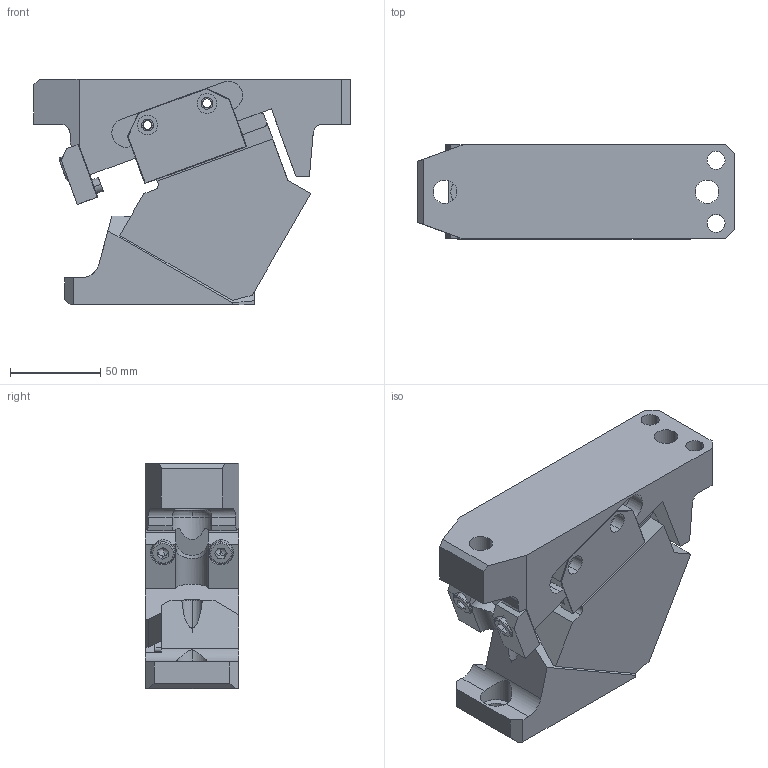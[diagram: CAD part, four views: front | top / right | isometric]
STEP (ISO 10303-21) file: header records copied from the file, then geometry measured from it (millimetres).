
FILE_DESCRIPTION (( 'STEP AP203' ), '1' );
FILE_NAME ('CLD052.30.step', '2014-05-05T08:34:30', ( '' ), ( '' ), 'SwSTEP 2.0', 'SolidWorks 2013', '' );
FILE_SCHEMA (( 'CONFIG_CONTROL_DESIGN' ));
Length unit declared in the file: millimetre
Products named in the file (4): CLD05230-01 CAM BASE; CLD05230-02 CAM SLIDER; CLD05230-03 CAM DRIVER; CLD052.30
Assembly tree (3 placements, depth 2):
  CLD052.30
    CLD05230-01 CAM BASE
    CLD05230-02 CAM SLIDER
    CLD05230-03 CAM DRIVER
Bounding box: 175 x 52 x 125 mm (x, y, z)
Volume: 660428.8 mm3; surface area: 115199.6 mm2
Topology: 3 solids, 7 shells, 374 faces, 972 edges, 616 vertices
Faces by surface type: plane 229, cylinder 120, cone 14, torus 11
Entity records: 11940 total; most frequent: CARTESIAN_POINT 2281, DIRECTION 1942, ORIENTED_EDGE 1924, EDGE_CURVE 962, AXIS2_PLACEMENT_3D 651, LINE 640, VECTOR 640, VERTEX_POINT 616
